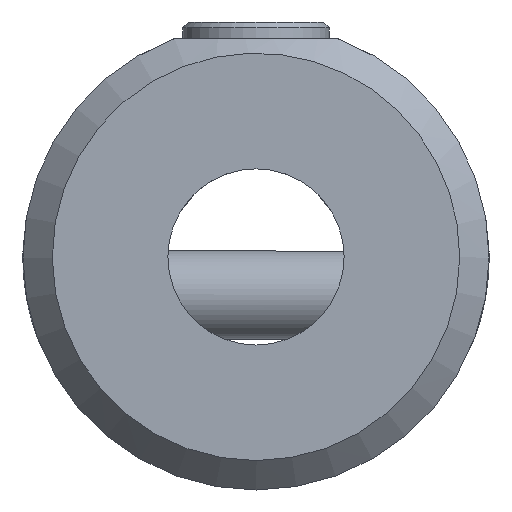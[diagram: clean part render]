
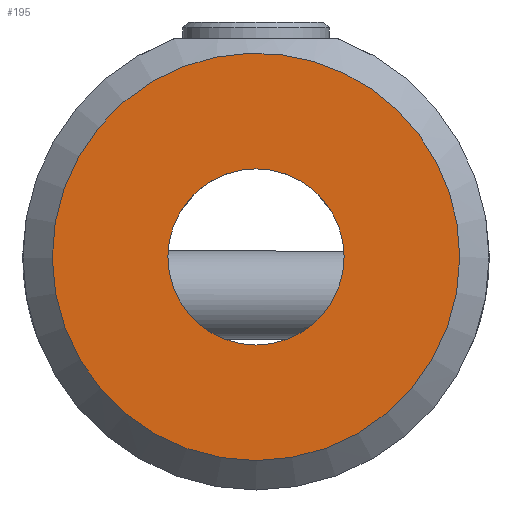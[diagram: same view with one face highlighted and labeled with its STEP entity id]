
A CAD part, left-side view. The second image highlights one B-rep face of the part: STEP entity #195.
In plain terms, the highlighted planar face has unit normal (-1, 0, 0).
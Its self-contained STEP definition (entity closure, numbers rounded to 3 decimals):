
#135=PLANE('',#853);
#195=ADVANCED_FACE('',(#291,#292),#135,.T.);
#291=FACE_BOUND('',#358,.T.);
#292=FACE_BOUND('',#359,.T.);
#358=EDGE_LOOP('',(#450));
#359=EDGE_LOOP('',(#451));
#450=ORIENTED_EDGE('',*,*,#710,.F.);
#451=ORIENTED_EDGE('',*,*,#711,.T.);
#637=VERTEX_POINT('',#1253);
#638=VERTEX_POINT('',#1255);
#710=EDGE_CURVE('',#637,#637,#802,.T.);
#711=EDGE_CURVE('',#638,#638,#803,.T.);
#802=CIRCLE('',#851,3.);
#803=CIRCLE('',#852,6.937);
#851=AXIS2_PLACEMENT_3D('',#1252,#956,#957);
#852=AXIS2_PLACEMENT_3D('',#1254,#958,#959);
#853=AXIS2_PLACEMENT_3D('',#1256,#960,#961);
#956=DIRECTION('',(-1.,0.,0.));
#957=DIRECTION('',(0.,0.,1.));
#958=DIRECTION('',(-1.,0.,0.));
#959=DIRECTION('',(0.,-1.,0.));
#960=DIRECTION('',(-1.,0.,0.));
#961=DIRECTION('',(0.,1.,0.));
#1252=CARTESIAN_POINT('',(-100.,0.,0.));
#1253=CARTESIAN_POINT('',(-100.,0.,3.));
#1254=CARTESIAN_POINT('',(-100.,0.,0.));
#1255=CARTESIAN_POINT('',(-100.,-6.937,0.));
#1256=CARTESIAN_POINT('',(-100.,0.,0.));
